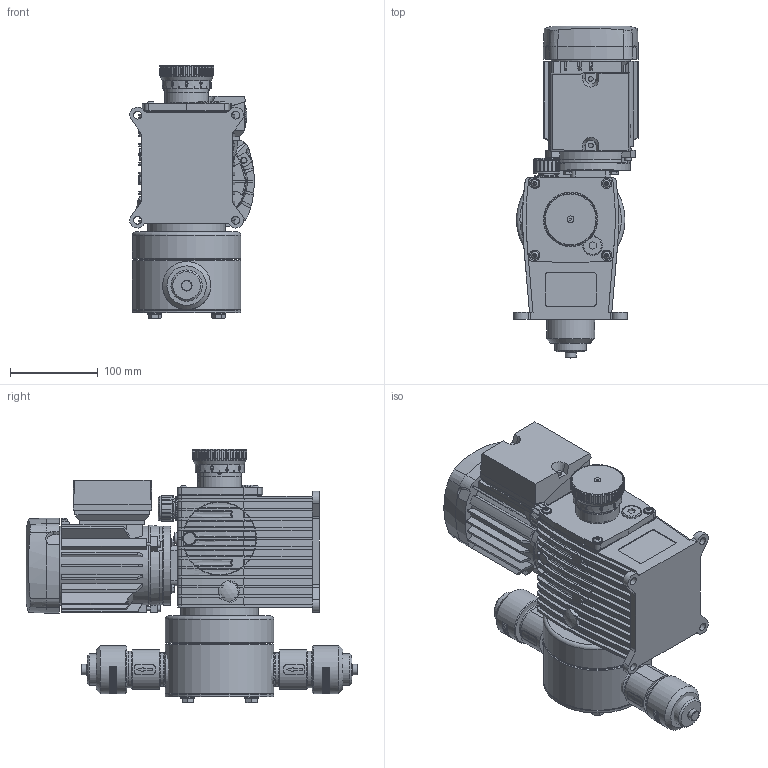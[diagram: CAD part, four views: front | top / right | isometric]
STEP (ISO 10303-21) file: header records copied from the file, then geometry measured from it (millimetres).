
FILE_DESCRIPTION (( 'STEP AP203' ), '1' );
FILE_NAME ('Memdos LB 80, 150 - 13_20 13_20.STEP', '2018-07-24T09:55:22', ( 'USER' ), ( '' ), 'SwSTEP 2.0', 'SolidWorks 2017', '' );
FILE_SCHEMA (( 'CONFIG_CONTROL_DESIGN' ));
Length unit declared in the file: millimetre
Products named in the file (1): Memdos LB 80, 150 - 13_20 13_20
Bounding box: 142.16 x 379 x 289.7 mm (x, y, z)
Volume: 5673355.3 mm3; surface area: 566884.3 mm2
Topology: 49 solids, 49 shells, 2602 faces, 6510 edges, 4277 vertices
Faces by surface type: plane 1433, cylinder 765, bspline 171, cone 157, torus 59, sphere 17
Full cylindrical faces by diameter (mm): 4 x7, 4.8 x3, 4.98 x2, 5 x8, 5.5 x2, 6 x2, 6.466 x4, 6.5 x2, 7 x3, 7.64 x1, 8 x12, 9 x4, 10 x4, 10.4 x1, 11 x1, 11.8 x4, 12 x2, 12.3 x2, 13.5 x1, 14.9 x1, 16 x4, 16.662 x1, 17.886 x1, 20.955 x1, 22.05 x1, 22.5 x1, 23.5 x1, 25.5 x1, 26.4 x2, 27 x1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
Entity records: 108666 total; most frequent: CARTESIAN_POINT 48164, ORIENTED_EDGE 12414, DIRECTION 12155, EDGE_CURVE 6207, AXIS2_PLACEMENT_3D 4445, VERTEX_POINT 4219, VECTOR 3265, LINE 3265
